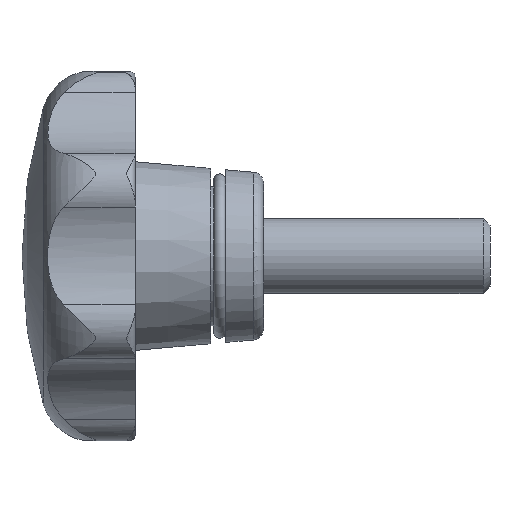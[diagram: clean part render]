
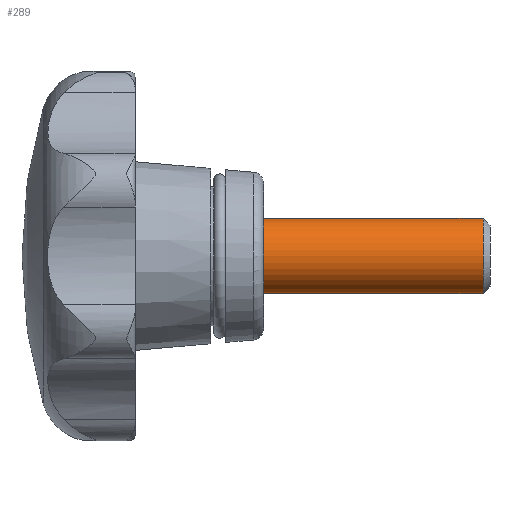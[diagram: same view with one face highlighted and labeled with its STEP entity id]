
A CAD part, left-side view. The second image highlights one B-rep face of the part: STEP entity #289.
In plain terms, the highlighted cylindrical face has radius 5 mm (diameter 10 mm), a full revolution.
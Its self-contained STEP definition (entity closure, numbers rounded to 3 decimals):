
#289 = ADVANCED_FACE( '', ( #615, #616 ), #617, .T. );
#615 = FACE_OUTER_BOUND( '', #997, .T. );
#616 = FACE_OUTER_BOUND( '', #998, .T. );
#617 = CYLINDRICAL_SURFACE( '', #999, 5. );
#997 = EDGE_LOOP( '', ( #2052 ) );
#998 = EDGE_LOOP( '', ( #2053 ) );
#999 = AXIS2_PLACEMENT_3D( '', #2054, #2055, #2056 );
#2052 = ORIENTED_EDGE( '', *, *, #2705, .F. );
#2053 = ORIENTED_EDGE( '', *, *, #2615, .T. );
#2054 = CARTESIAN_POINT( '', ( 0., -30., 0. ) );
#2055 = DIRECTION( '', ( 0., 1., 0. ) );
#2056 = DIRECTION( '', ( 0., 0., -1. ) );
#2615 = EDGE_CURVE( '', #3202, #3202, #3203, .T. );
#2705 = EDGE_CURVE( '', #3325, #3325, #3326, .T. );
#3202 = VERTEX_POINT( '', #4844 );
#3203 = CIRCLE( '', #4845, 5. );
#3325 = VERTEX_POINT( '', #5032 );
#3326 = CIRCLE( '', #5033, 5. );
#4844 = CARTESIAN_POINT( '', ( 0., 0., -5. ) );
#4845 = AXIS2_PLACEMENT_3D( '', #5594, #5595, #5596 );
#5032 = CARTESIAN_POINT( '', ( 0., -29.08, -5. ) );
#5033 = AXIS2_PLACEMENT_3D( '', #5795, #5796, #5797 );
#5594 = CARTESIAN_POINT( '', ( 0., 0., 0. ) );
#5595 = DIRECTION( '', ( 0., -1., 0. ) );
#5596 = DIRECTION( '', ( 0., 0., -1. ) );
#5795 = CARTESIAN_POINT( '', ( 0., -29.08, 0. ) );
#5796 = DIRECTION( '', ( 0., -1., 0. ) );
#5797 = DIRECTION( '', ( 0., 0., -1. ) );
